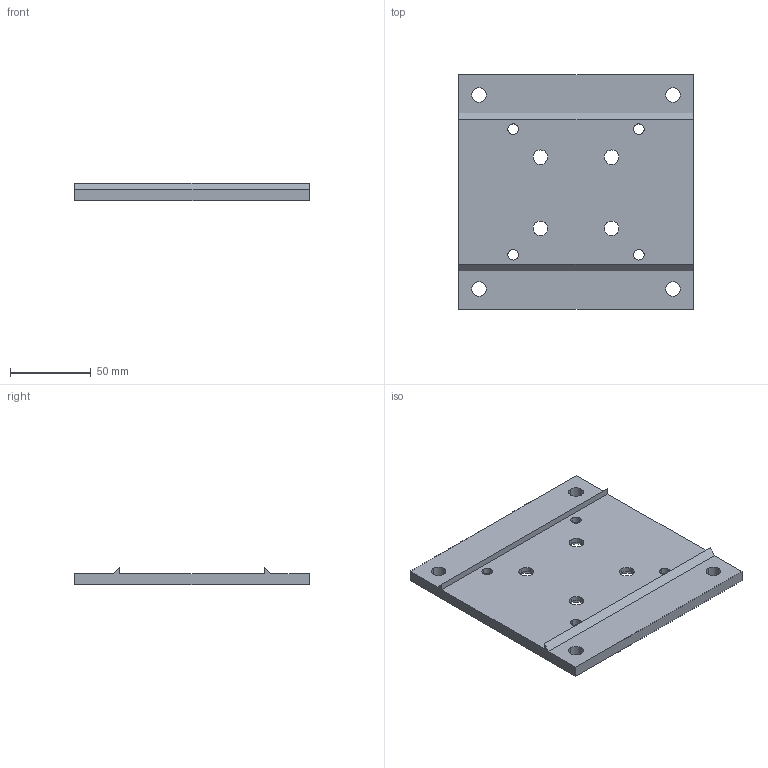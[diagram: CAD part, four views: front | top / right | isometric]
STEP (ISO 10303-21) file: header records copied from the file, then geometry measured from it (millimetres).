
FILE_DESCRIPTION (( 'STEP AP214' ), '1' );
FILE_NAME ('FAFB 88F.step', '2017-04-05T07:55:11', ( '' ), ( '' ), 'SwSTEP 2.0', 'SolidWorks 2015', '' );
FILE_SCHEMA (( 'AUTOMOTIVE_DESIGN' ));
Length unit declared in the file: millimetre
Products named in the file (1): FAFB 88F
Bounding box: 145 x 145 x 11.04 mm (x, y, z)
Volume: 143373.3 mm3; surface area: 48384.5 mm2
Topology: 1 solids, 1 shells, 52 faces, 150 edges, 100 vertices
Faces by surface type: cylinder 24, cone 16, plane 12
Entity records: 1836 total; most frequent: DIRECTION 336, CARTESIAN_POINT 303, ORIENTED_EDGE 300, EDGE_CURVE 150, AXIS2_PLACEMENT_3D 133, VERTEX_POINT 100, CIRCLE 80, EDGE_LOOP 76
